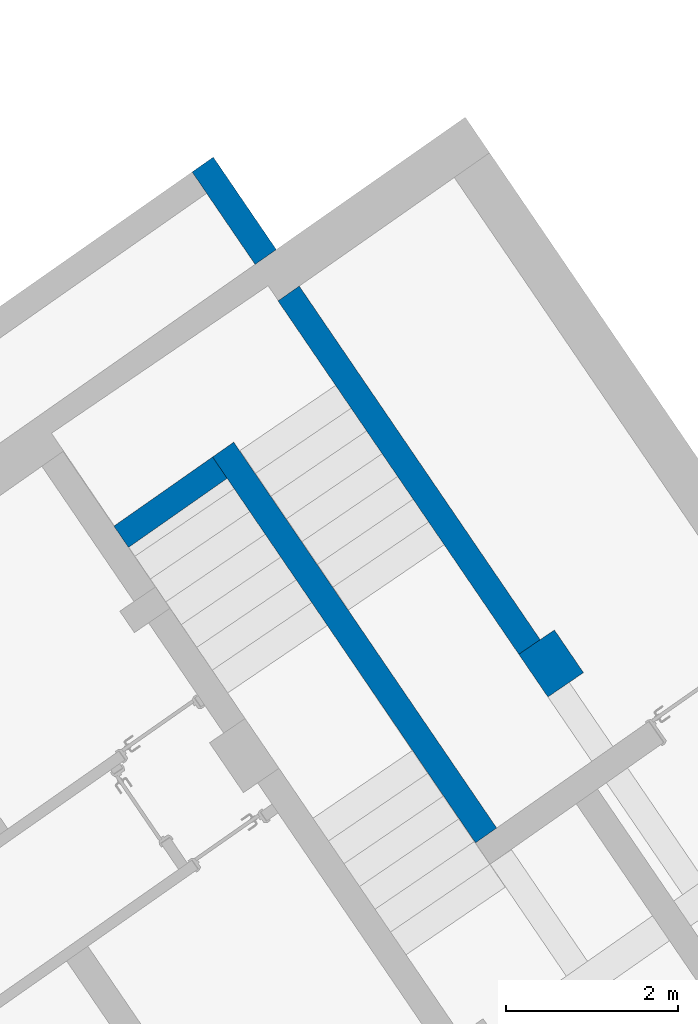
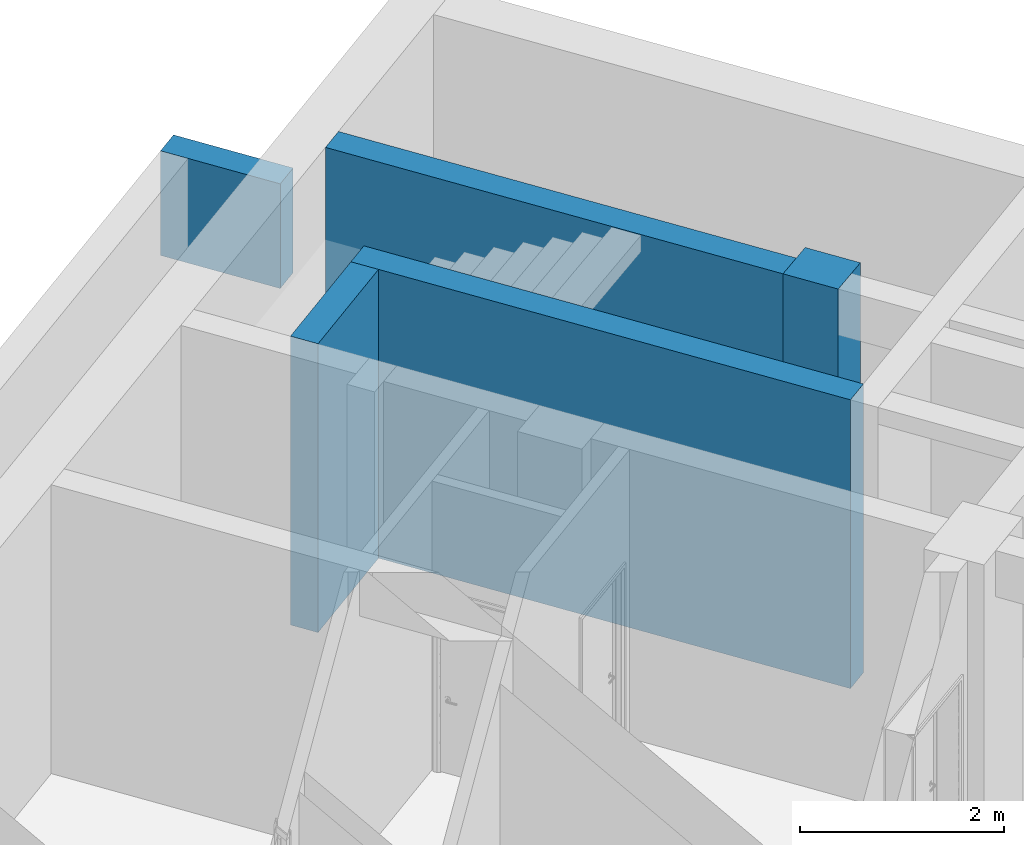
# One storey, part 72 of 112: 5 walls.
"""IFC2X3 building model written with IfcOpenShell, lengths in millimetres."""

from ifc_helpers import new_model, entity, si_unit, converted_unit, derived_unit, direction, frame, frame_2d, origin, place, context, subcontext, project, spatial, polyline, rectangle, outline, extrude, material, layer, layer_set, layer_usage, type_object, element, save


model = new_model("IFC2X3")

# Units and contexts
model_context = context("Model", 3, precision=0.01, world=origin(), true_north=direction((6.123031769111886e-17, 1.0)))
body_context = subcontext(model_context, "Body", "Model", "MODEL_VIEW")
ifc_project = project(units=[si_unit("LENGTHUNIT", "METRE", prefix="MILLI"), si_unit("AREAUNIT", "SQUARE_METRE"), si_unit("VOLUMEUNIT", "CUBIC_METRE"), converted_unit("PLANEANGLEUNIT", "DEGREE", entity("IfcRatioMeasure", 0.017453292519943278), si_unit("PLANEANGLEUNIT", "RADIAN"), dimensions=[0, 0, 0, 0, 0, 0, 0]), si_unit("MASSUNIT", "GRAM", prefix="KILO"), derived_unit("MASSDENSITYUNIT", [(si_unit("MASSUNIT", "GRAM", prefix="KILO"), 1), (si_unit("LENGTHUNIT", "METRE"), -3)]), derived_unit("MOMENTOFINERTIAUNIT", [(si_unit("LENGTHUNIT", "METRE"), 4)]), si_unit("TIMEUNIT", "SECOND"), si_unit("FREQUENCYUNIT", "HERTZ"), si_unit("THERMODYNAMICTEMPERATUREUNIT", "DEGREE_CELSIUS"), derived_unit("THERMALTRANSMITTANCEUNIT", [(si_unit("MASSUNIT", "GRAM", prefix="KILO"), 1), (si_unit("THERMODYNAMICTEMPERATUREUNIT", "KELVIN"), -1), (si_unit("TIMEUNIT", "SECOND"), -3)]), derived_unit("THERMALCONDUCTANCEUNIT", [(si_unit("MASSUNIT", "GRAM", prefix="KILO"), 1), (si_unit("LENGTHUNIT", "METRE"), 1), (si_unit("THERMODYNAMICTEMPERATUREUNIT", "KELVIN"), -1), (si_unit("TIMEUNIT", "SECOND"), -3)]), derived_unit("VOLUMETRICFLOWRATEUNIT", [(si_unit("LENGTHUNIT", "METRE"), 3), (si_unit("TIMEUNIT", "SECOND"), -1)]), derived_unit("MASSFLOWRATEUNIT", [(si_unit("MASSUNIT", "GRAM", prefix="KILO"), 1), (si_unit("TIMEUNIT", "SECOND"), -1)]), derived_unit("ROTATIONALFREQUENCYUNIT", [(si_unit("TIMEUNIT", "SECOND"), -1)]), si_unit("ELECTRICCURRENTUNIT", "AMPERE"), si_unit("ELECTRICVOLTAGEUNIT", "VOLT"), si_unit("POWERUNIT", "WATT"), converted_unit("FORCEUNIT", "KIP", entity("IfcRatioMeasure", 2.088543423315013e-05), si_unit("FORCEUNIT", "NEWTON"), dimensions=[1, 1, -2, 0, 0, 0, 0]), si_unit("ILLUMINANCEUNIT", "LUX"), si_unit("LUMINOUSFLUXUNIT", "LUMEN"), si_unit("LUMINOUSINTENSITYUNIT", "CANDELA"), derived_unit("USERDEFINED", [(si_unit("MASSUNIT", "GRAM", prefix="KILO"), -1), (si_unit("LENGTHUNIT", "METRE"), -2), (si_unit("TIMEUNIT", "SECOND"), 3), (si_unit("LUMINOUSFLUXUNIT", "LUMEN"), 1)]), derived_unit("USERDEFINED", [(si_unit("MASSUNIT", "GRAM", prefix="KILO"), 1), (si_unit("LENGTHUNIT", "METRE"), 3), (si_unit("TIMEUNIT", "SECOND"), -3), (si_unit("ELECTRICCURRENTUNIT", "AMPERE"), -2)]), derived_unit("USERDEFINED", [(si_unit("LENGTHUNIT", "METRE"), 2), (si_unit("TIMEUNIT", "SECOND"), -2)]), derived_unit("SOUNDPOWERUNIT", [(si_unit("MASSUNIT", "GRAM", prefix="KILO"), 1), (si_unit("LENGTHUNIT", "METRE"), 2), (si_unit("TIMEUNIT", "SECOND"), -3)]), derived_unit("SOUNDPRESSUREUNIT", [(si_unit("MASSUNIT", "GRAM", prefix="KILO"), 1), (si_unit("LENGTHUNIT", "METRE"), -1), (si_unit("TIMEUNIT", "SECOND"), -2)]), derived_unit("LINEARVELOCITYUNIT", [(si_unit("LENGTHUNIT", "METRE"), 1), (si_unit("TIMEUNIT", "SECOND"), -1)]), si_unit("PRESSUREUNIT", "PASCAL"), derived_unit("USERDEFINED", [(si_unit("LENGTHUNIT", "METRE"), -2), (si_unit("MASSUNIT", "GRAM", prefix="KILO"), 1), (si_unit("TIMEUNIT", "SECOND"), -2)]), derived_unit("LINEARFORCEUNIT", [(si_unit("MASSUNIT", "GRAM", prefix="KILO"), 1), (si_unit("LENGTHUNIT", "METRE"), 1), (si_unit("TIMEUNIT", "SECOND"), -2), (si_unit("LENGTHUNIT", "METRE"), -1)]), derived_unit("PLANARFORCEUNIT", [(si_unit("MASSUNIT", "GRAM", prefix="KILO"), 1), (si_unit("LENGTHUNIT", "METRE"), 1), (si_unit("TIMEUNIT", "SECOND"), -2), (si_unit("LENGTHUNIT", "METRE"), -2)]), derived_unit("SPECIFICHEATCAPACITYUNIT", [(si_unit("LENGTHUNIT", "METRE"), 2), (si_unit("TIMEUNIT", "SECOND"), -2), (si_unit("THERMODYNAMICTEMPERATUREUNIT", "KELVIN"), -1)]), derived_unit("VAPORPERMEABILITYUNIT", [(si_unit("TIMEUNIT", "SECOND"), 1), (si_unit("LENGTHUNIT", "METRE"), -1)]), derived_unit("DYNAMICVISCOSITYUNIT", [(si_unit("MASSUNIT", "GRAM", prefix="KILO"), 1), (si_unit("LENGTHUNIT", "METRE"), -1), (si_unit("TIMEUNIT", "SECOND"), -1)]), derived_unit("THERMALEXPANSIONCOEFFICIENTUNIT", [(si_unit("THERMODYNAMICTEMPERATUREUNIT", "KELVIN"), -1)])], contexts=[model_context])

# Site, building, storey
site_placement = place(None, frame((0.0, 0.0, 0.0), z_axis=(0.0, 0.0, 1.0), x_axis=(0.8191520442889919, 0.5735764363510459, 0.0)))
site = spatial("IfcSite", under=ifc_project, at=site_placement, Name="Default", CompositionType="ELEMENT")
building_placement = place(site_placement, origin())
building = spatial("IfcBuilding", under=site, at=building_placement, CompositionType="ELEMENT")
storey_placement = place(building_placement, frame((0.0, 0.0, -3600.0)))
storey = spatial("IfcBuildingStorey", under=building, at=storey_placement, Name="0.UG -3.60", CompositionType="ELEMENT", Elevation=-3600.0000000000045)

# Walls
ifc_material = material(Name="Analytical Wall Surface_CJC")
ifc_layer_1 = layer(ifc_material, 300.0)
ifc_layer_set_1 = layer_set([ifc_layer_1], Name="Basic Wall:Wand_Innen_30")
ifc_layer_usage_1 = layer_usage(ifc_layer_set_1, "AXIS2", "NEGATIVE", 150.0)
wall_type_1 = type_object("IfcWallType", Name="Basic Wall:Wand_Innen_30", PredefinedType="STANDARD", material=ifc_layer_set_1)
wall_1_placement = place(storey_placement, frame((-208606.21168142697, 166043.8088756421, 0.0), z_axis=(0.0, 0.0, 1.0), x_axis=(0.012729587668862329, 0.999918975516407, 0.0)))
element("IfcWallStandardCase", 1, at=wall_1_placement, inside=storey, type_object=wall_type_1, material=ifc_layer_usage_1, Name="Basic Wall:Wand_Innen_30", ObjectType="Basic Wall:Wand_Innen_30", context=body_context, shape_type="SweptSolid", body=[
    extrude(outline(polyline([(5429.899431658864, -150.0), (5426.0802459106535, 150.0), (5126.055936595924, 150.0), (0.0, 150.0), (3.8655408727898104, -150.0), (5429.899431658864, -150.0)])), origin(), (0.0, 0.0, 1.0), 3450.0),
])
wall_2_placement = place(storey_placement, frame((-208687.12776356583, 171321.35891435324, 0.0), z_axis=(0.0, 0.0, 1.0), x_axis=(-1.0, 0.0, 0.0)))
element("IfcWallStandardCase", 2, at=wall_2_placement, inside=storey, type_object=wall_type_1, material=ifc_layer_usage_1, Name="Basic Wall:Wand_Innen_30", ObjectType="Basic Wall:Wand_Innen_30", context=body_context, shape_type="SweptSolid", body=[
    extrude(outline(polyline([(1400.1134434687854, -150.0), (1403.9326292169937, 150.0), (3.8191857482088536, 150.0), (0.0, -150.0), (1400.1134434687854, -150.0)])), origin(), (0.0, 0.0, 1.0), 3450.0),
])
ifc_layer_usage_2 = layer_usage(ifc_layer_set_1, "AXIS2", "POSITIVE", -150.0)
wall_3_placement = place(storey_placement, frame((-206936.8928684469, 167550.81427003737, 0.0), z_axis=(0.0, 0.0, 1.0), x_axis=(0.012729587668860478, 0.9999189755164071, 0.0)))
element("IfcWallStandardCase", 3, at=wall_3_placement, inside=storey, type_object=wall_type_1, material=ifc_layer_usage_2, Name="Basic Wall:Wand_Innen_30", ObjectType="Basic Wall:Wand_Innen_30", context=body_context, shape_type="SweptSolid", body=[
    extrude(outline(polyline([(4972.857005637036, -150.0), (4969.037819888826, 150.0), (0.0, 150.0), (0.0, -150.0), (4972.857005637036, -150.0)])), origin(), (0.0, 0.0, 1.0), 3450.0),
])
ifc_layer_2 = layer(ifc_material, 500.00000000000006)
ifc_layer_set_2 = layer_set([ifc_layer_2], Name="Basic Wall:Wand_Innen_50")
ifc_layer_usage_3 = layer_usage(ifc_layer_set_2, "AXIS2", "POSITIVE", -250.00000000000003)
wall_type_2 = type_object("IfcWallType", Name="Basic Wall:Wand_Innen_50", PredefinedType="STANDARD", material=ifc_layer_set_2)
wall_4_placement = place(storey_placement, frame((-206844.5393423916, 166949.5413112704, 0.0), z_axis=(0.0, 0.0, 1.0), x_axis=(0.012729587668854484, 0.9999189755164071, 0.0)))
element("IfcWallStandardCase", 4, at=wall_4_placement, inside=storey, type_object=wall_type_2, material=ifc_layer_usage_3, Name="Basic Wall:Wand_Innen_50", ObjectType="Basic Wall:Wand_Innen_50", context=body_context, shape_type="SweptSolid", body=[
    extrude(rectangle(XDim=600.0486186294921, YDim=500.0000000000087, at=frame_2d((300.02430931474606, 5.684341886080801e-13), x_axis=(-1.0, 0.0))), origin(), (0.0, 0.0, 1.0), 3450.0),
])
ifc_layer_3 = layer(ifc_material, 300.0)
ifc_layer_set_3 = layer_set([ifc_layer_3], Name="Basic Wall:Wand_Aussen_30")
ifc_layer_usage_4 = layer_usage(ifc_layer_set_3, "AXIS2", "POSITIVE", -150.0)
wall_type_3 = type_object("IfcWallType", Name="Basic Wall:Wand_Aussen_30", PredefinedType="STANDARD", material=ifc_layer_set_3)
wall_5_placement = place(storey_placement, frame((-206848.76263823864, 173019.44947620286, 1600.0), z_axis=(0.0, 0.0, 1.0), x_axis=(0.012729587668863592, 0.999918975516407, 0.0)))
element("IfcWallStandardCase", 5, at=wall_5_placement, inside=storey, type_object=wall_type_3, material=ifc_layer_usage_4, Name="Basic Wall:Wand_Aussen_30", ObjectType="Basic Wall:Wand_Aussen_30", context=body_context, shape_type="SweptSolid", body=[
    extrude(outline(polyline([(1303.9245261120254, -150.0), (1300.1053403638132, 150.0), (1000.0810310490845, 150.0), (0.0, 150.0), (3.819185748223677, -150.0), (1303.9245261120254, -150.0)])), origin(), (0.0, 0.0, 1.0), 1250.0),
])

save(model, "model.ifc")
